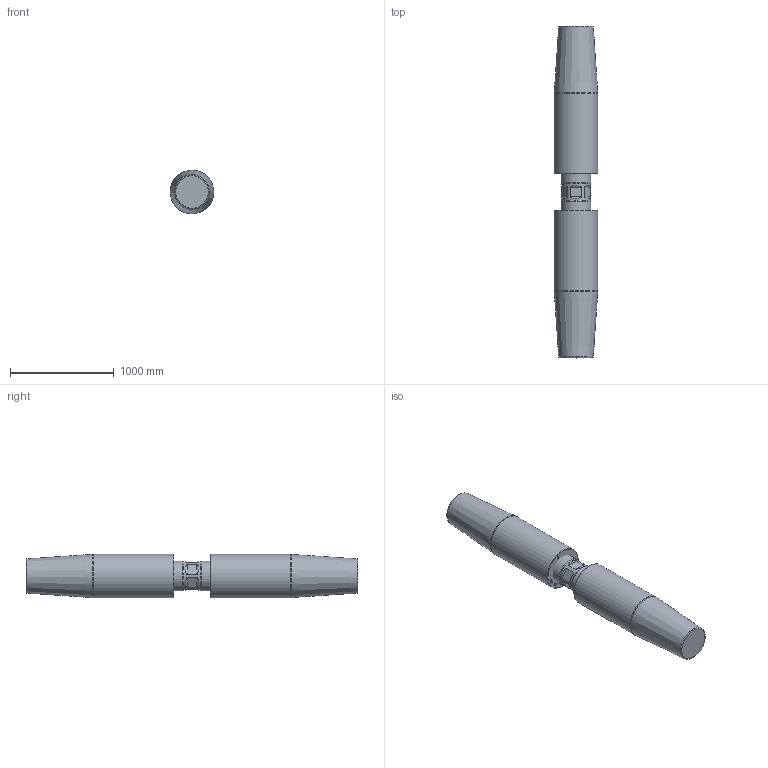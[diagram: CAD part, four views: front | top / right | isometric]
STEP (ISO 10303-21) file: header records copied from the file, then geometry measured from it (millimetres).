
FILE_DESCRIPTION(/* description */ (''),/* implementation_level */ '2;1');
FILE_NAME(/* name */ 'D:\Clienti\Redaelli (inventor)\CYA\STEP\Arrangement\CYA144 52 061 2.stp',/* time_stamp */ '2021-05-09T10:49:34+02:00',/* author */ ('fabri'),/* organization */ (''),/* preprocessor_version */ 'ST-DEVELOPER v16.13',/* originating_system */ 'Autodesk Inventor 2018',/* authorisation */ '');
FILE_SCHEMA (('AUTOMOTIVE_DESIGN { 1 0 10303 214 3 1 1 }'));
Length unit declared in the file: millimetre
Products named in the file (4): CYA012-54-062-0; TBF012-12-012-1; TBF012-13-012-0; TBF012-13-012-0_1
Assembly tree (3 placements, depth 2):
  CYA012-54-062-0
    TBF012-12-012-1
    TBF012-13-012-0
    TBF012-13-012-0_1
Bounding box: 419.73 x 3199 x 419.73 mm (x, y, z)
Volume: 445289451.1 mm3; surface area: 5398149.3 mm2
Topology: 3 solids, 3 shells, 481 faces, 1269 edges, 840 vertices
Faces by surface type: plane 279, bspline 159, cylinder 25, cone 14, torus 4
Full cylindrical faces by diameter (mm): 17.294 x2, 23.752 x6, 277.5 x1, 285 x2, 420 x2
Entity records: 15883 total; most frequent: CARTESIAN_POINT 5097, ORIENTED_EDGE 2460, DIRECTION 1600, EDGE_CURVE 1230, LINE 862, VECTOR 862, VERTEX_POINT 832, EDGE_LOOP 558
